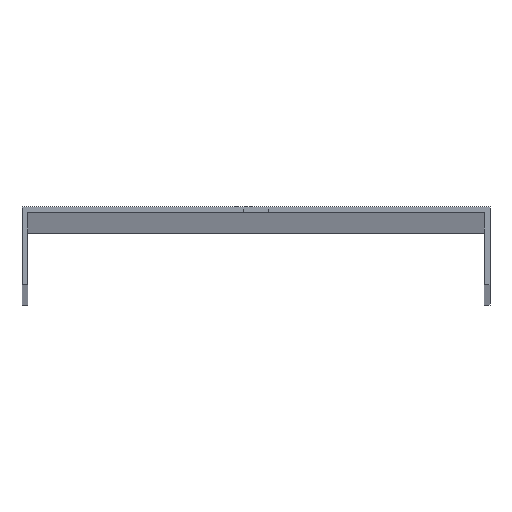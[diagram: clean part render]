
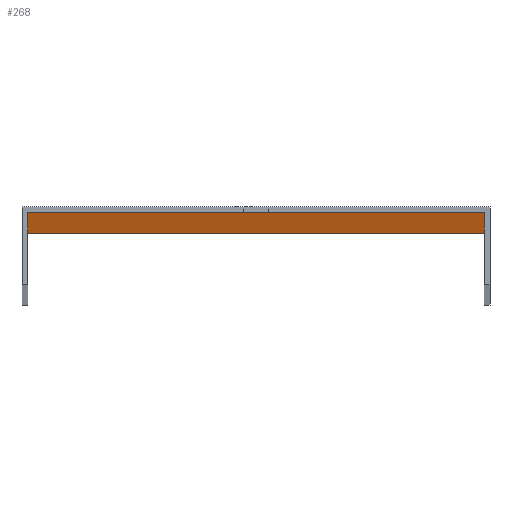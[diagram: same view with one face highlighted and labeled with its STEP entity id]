
A CAD part, top view. The second image highlights one B-rep face of the part: STEP entity #268.
In plain terms, the highlighted planar face has unit normal (0, -1, 0).
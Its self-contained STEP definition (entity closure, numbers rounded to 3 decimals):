
#5 = DIRECTION ( 'NONE',  ( 1., 0., 0. ) ) ;
#9 = VECTOR ( 'NONE', #55, 1000. ) ;
#14 = DIRECTION ( 'NONE',  ( -1., 0., 0. ) ) ;
#33 = LINE ( 'NONE', #40, #398 ) ;
#40 = CARTESIAN_POINT ( 'NONE',  ( -58.75, -1.5, 1500. ) ) ;
#47 = LINE ( 'NONE', #50, #264 ) ;
#50 = CARTESIAN_POINT ( 'NONE',  ( 3.25, -1.5, 1500. ) ) ;
#55 = DIRECTION ( 'NONE',  ( 0., 0., 1. ) ) ;
#65 = CARTESIAN_POINT ( 'NONE',  ( -3.25, -1.5, 1500. ) ) ;
#80 = EDGE_CURVE ( 'NONE', #551, #82, #197, .T. ) ;
#81 = FACE_BOUND ( 'NONE', #183, .T. ) ;
#82 = VERTEX_POINT ( 'NONE', #244 ) ;
#87 = LINE ( 'NONE', #513, #106 ) ;
#91 = VECTOR ( 'NONE', #289, 1000. ) ;
#96 = EDGE_CURVE ( 'NONE', #396, #122, #472, .T. ) ;
#104 = CARTESIAN_POINT ( 'NONE',  ( -60.25, -1.5, -1500. ) ) ;
#106 = VECTOR ( 'NONE', #552, 1000. ) ;
#107 = ORIENTED_EDGE ( 'NONE', *, *, #118, .F. ) ;
#118 = EDGE_CURVE ( 'NONE', #311, #334, #340, .T. ) ;
#121 = VECTOR ( 'NONE', #14, 1000. ) ;
#122 = VERTEX_POINT ( 'NONE', #204 ) ;
#126 = CARTESIAN_POINT ( 'NONE',  ( -60.25, -1.5, 1500. ) ) ;
#127 = VERTEX_POINT ( 'NONE', #342 ) ;
#148 = EDGE_LOOP ( 'NONE', ( #543, #320, #107, #415 ) ) ;
#160 = EDGE_CURVE ( 'NONE', #540, #551, #388, .T. ) ;
#167 = FACE_BOUND ( 'NONE', #148, .T. ) ;
#172 = DIRECTION ( 'NONE',  ( 0., 0., -1. ) ) ;
#173 = CARTESIAN_POINT ( 'NONE',  ( -60.25, -1.5, 1500. ) ) ;
#179 = CARTESIAN_POINT ( 'NONE',  ( 3.25, -1.5, -1479. ) ) ;
#183 = EDGE_LOOP ( 'NONE', ( #390, #241, #218, #503 ) ) ;
#184 = CARTESIAN_POINT ( 'NONE',  ( 3.25, -1.5, -1488. ) ) ;
#188 = LINE ( 'NONE', #516, #9 ) ;
#197 = LINE ( 'NONE', #104, #91 ) ;
#201 = EDGE_CURVE ( 'NONE', #540, #269, #403, .T. ) ;
#203 = CARTESIAN_POINT ( 'NONE',  ( -60.25, -1.5, 1479. ) ) ;
#204 = CARTESIAN_POINT ( 'NONE',  ( -3.25, -1.5, -1488. ) ) ;
#206 = CARTESIAN_POINT ( 'NONE',  ( 58.75, -1.5, 1500. ) ) ;
#207 = LINE ( 'NONE', #203, #566 ) ;
#214 = VECTOR ( 'NONE', #432, 1000. ) ;
#218 = ORIENTED_EDGE ( 'NONE', *, *, #439, .T. ) ;
#241 = ORIENTED_EDGE ( 'NONE', *, *, #545, .T. ) ;
#242 = FACE_OUTER_BOUND ( 'NONE', #581, .T. ) ;
#244 = CARTESIAN_POINT ( 'NONE',  ( -58.75, -1.5, -1500. ) ) ;
#245 = CARTESIAN_POINT ( 'NONE',  ( 58.75, -1.5, -1500. ) ) ;
#246 = ORIENTED_EDGE ( 'NONE', *, *, #201, .T. ) ;
#247 = EDGE_CURVE ( 'NONE', #269, #82, #33, .T. ) ;
#253 = CARTESIAN_POINT ( 'NONE',  ( 3.25, -1.5, 1500. ) ) ;
#262 = VECTOR ( 'NONE', #490, 1000. ) ;
#264 = VECTOR ( 'NONE', #172, 1000. ) ;
#265 = PLANE ( 'NONE',  #483 ) ;
#268 = ADVANCED_FACE ( 'NONE', ( #167, #242, #81 ), #265, .T. ) ;
#269 = VERTEX_POINT ( 'NONE', #546 ) ;
#289 = DIRECTION ( 'NONE',  ( -1., 0., 0. ) ) ;
#311 = VERTEX_POINT ( 'NONE', #502 ) ;
#320 = ORIENTED_EDGE ( 'NONE', *, *, #446, .F. ) ;
#326 = CARTESIAN_POINT ( 'NONE',  ( -60.25, -1.5, -1479. ) ) ;
#331 = LINE ( 'NONE', #326, #459 ) ;
#334 = VERTEX_POINT ( 'NONE', #473 ) ;
#335 = EDGE_CURVE ( 'NONE', #404, #579, #477, .T. ) ;
#340 = LINE ( 'NONE', #253, #262 ) ;
#342 = CARTESIAN_POINT ( 'NONE',  ( -3.25, -1.5, -1479. ) ) ;
#349 = CARTESIAN_POINT ( 'NONE',  ( -3.25, -1.5, 1479. ) ) ;
#373 = EDGE_CURVE ( 'NONE', #435, #396, #47, .T. ) ;
#388 = LINE ( 'NONE', #206, #408 ) ;
#390 = ORIENTED_EDGE ( 'NONE', *, *, #96, .T. ) ;
#391 = DIRECTION ( 'NONE',  ( 0., 0., -1. ) ) ;
#396 = VERTEX_POINT ( 'NONE', #184 ) ;
#398 = VECTOR ( 'NONE', #406, 1000. ) ;
#403 = LINE ( 'NONE', #173, #535 ) ;
#404 = VERTEX_POINT ( 'NONE', #504 ) ;
#406 = DIRECTION ( 'NONE',  ( 0., 0., -1. ) ) ;
#408 = VECTOR ( 'NONE', #391, 1000. ) ;
#415 = ORIENTED_EDGE ( 'NONE', *, *, #586, .F. ) ;
#427 = CARTESIAN_POINT ( 'NONE',  ( -60.25, -1.5, -1488. ) ) ;
#432 = DIRECTION ( 'NONE',  ( 0., 0., -1. ) ) ;
#435 = VERTEX_POINT ( 'NONE', #179 ) ;
#439 = EDGE_CURVE ( 'NONE', #127, #435, #331, .T. ) ;
#446 = EDGE_CURVE ( 'NONE', #334, #404, #87, .T. ) ;
#447 = DIRECTION ( 'NONE',  ( -1., 0., 0. ) ) ;
#459 = VECTOR ( 'NONE', #5, 1000. ) ;
#468 = CARTESIAN_POINT ( 'NONE',  ( 58.75, -1.5, 1500. ) ) ;
#472 = LINE ( 'NONE', #427, #121 ) ;
#473 = CARTESIAN_POINT ( 'NONE',  ( 3.25, -1.5, 1488. ) ) ;
#477 = LINE ( 'NONE', #65, #214 ) ;
#479 = DIRECTION ( 'NONE',  ( 1., 0., 0. ) ) ;
#483 = AXIS2_PLACEMENT_3D ( 'NONE', #126, #498, #495 ) ;
#490 = DIRECTION ( 'NONE',  ( 0., 0., 1. ) ) ;
#495 = DIRECTION ( 'NONE',  ( 0., 0., -1. ) ) ;
#498 = DIRECTION ( 'NONE',  ( 0., -1., 0. ) ) ;
#502 = CARTESIAN_POINT ( 'NONE',  ( 3.25, -1.5, 1479. ) ) ;
#503 = ORIENTED_EDGE ( 'NONE', *, *, #373, .T. ) ;
#504 = CARTESIAN_POINT ( 'NONE',  ( -3.25, -1.5, 1488. ) ) ;
#513 = CARTESIAN_POINT ( 'NONE',  ( -60.25, -1.5, 1488. ) ) ;
#516 = CARTESIAN_POINT ( 'NONE',  ( -3.25, -1.5, 1500. ) ) ;
#523 = ORIENTED_EDGE ( 'NONE', *, *, #80, .F. ) ;
#533 = ORIENTED_EDGE ( 'NONE', *, *, #247, .T. ) ;
#535 = VECTOR ( 'NONE', #447, 1000. ) ;
#540 = VERTEX_POINT ( 'NONE', #468 ) ;
#543 = ORIENTED_EDGE ( 'NONE', *, *, #335, .F. ) ;
#545 = EDGE_CURVE ( 'NONE', #122, #127, #188, .T. ) ;
#546 = CARTESIAN_POINT ( 'NONE',  ( -58.75, -1.5, 1500. ) ) ;
#551 = VERTEX_POINT ( 'NONE', #245 ) ;
#552 = DIRECTION ( 'NONE',  ( -1., 0., 0. ) ) ;
#566 = VECTOR ( 'NONE', #479, 1000. ) ;
#576 = ORIENTED_EDGE ( 'NONE', *, *, #160, .F. ) ;
#579 = VERTEX_POINT ( 'NONE', #349 ) ;
#581 = EDGE_LOOP ( 'NONE', ( #523, #576, #246, #533 ) ) ;
#586 = EDGE_CURVE ( 'NONE', #579, #311, #207, .T. ) ;
